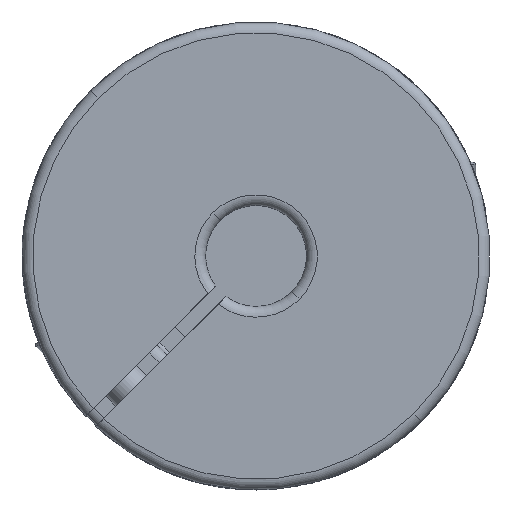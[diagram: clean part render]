
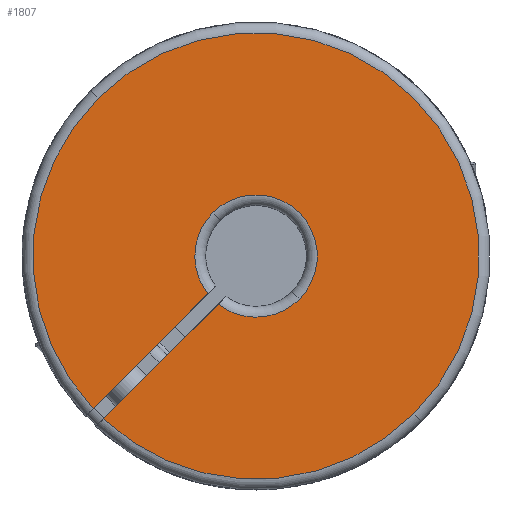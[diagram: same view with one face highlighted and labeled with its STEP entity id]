
A CAD part, front view. The second image highlights one B-rep face of the part: STEP entity #1807.
In plain terms, the highlighted planar face has unit normal (0, -1, 0) as drawn and (-1, 0, 0) by its records, which use the part's own axes.
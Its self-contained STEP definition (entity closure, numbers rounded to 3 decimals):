
#539 = CIRCLE ( 'NONE', #2214, 31. ) ;
#611 = DIRECTION ( 'NONE',  ( 0., -1., 0. ) ) ;
#721 = EDGE_CURVE ( 'NONE', #4507, #2028, #11123, .T. ) ;
#807 = VERTEX_POINT ( 'NONE', #3621 ) ;
#976 = EDGE_CURVE ( 'NONE', #9335, #10876, #9635, .T. ) ;
#1259 = VERTEX_POINT ( 'NONE', #5899 ) ;
#1351 = AXIS2_PLACEMENT_3D ( 'NONE', #7839, #8827, #9888 ) ;
#1647 = AXIS2_PLACEMENT_3D ( 'NONE', #3215, #7230, #10342 ) ;
#1735 = VECTOR ( 'NONE', #611, 1000. ) ;
#1807 = ADVANCED_FACE ( 'NONE', ( #6597 ), #8627, .F. ) ;
#1839 = VERTEX_POINT ( 'NONE', #4939 ) ;
#2028 = VERTEX_POINT ( 'NONE', #10279 ) ;
#2168 = CARTESIAN_POINT ( 'NONE',  ( 0., 8.441, 1. ) ) ;
#2214 = AXIS2_PLACEMENT_3D ( 'NONE', #2809, #6816, #8600 ) ;
#2326 = DIRECTION ( 'NONE',  ( 0., 0., 1. ) ) ;
#2367 = AXIS2_PLACEMENT_3D ( 'NONE', #7761, #11343, #2326 ) ;
#2577 = CARTESIAN_POINT ( 'NONE',  ( 0., 31., 0. ) ) ;
#2809 = CARTESIAN_POINT ( 'NONE',  ( 0., 0., 0. ) ) ;
#2901 = AXIS2_PLACEMENT_3D ( 'NONE', #12978, #4673, #8688 ) ;
#3098 = EDGE_CURVE ( 'NONE', #5865, #9335, #10891, .T. ) ;
#3215 = CARTESIAN_POINT ( 'NONE',  ( 0., 0., 0. ) ) ;
#3301 = CARTESIAN_POINT ( 'NONE',  ( 0., 0., 0. ) ) ;
#3341 = LINE ( 'NONE', #8403, #9131 ) ;
#3580 = ORIENTED_EDGE ( 'NONE', *, *, #5185, .T. ) ;
#3621 = CARTESIAN_POINT ( 'NONE',  ( 0., 8.441, -1. ) ) ;
#3771 = LINE ( 'NONE', #11546, #1735 ) ;
#3996 = ORIENTED_EDGE ( 'NONE', *, *, #3098, .F. ) ;
#4246 = CIRCLE ( 'NONE', #2367, 31. ) ;
#4388 = CARTESIAN_POINT ( 'NONE',  ( 0., 30.984, -1. ) ) ;
#4489 = DIRECTION ( 'NONE',  ( 0., 0., -1. ) ) ;
#4507 = VERTEX_POINT ( 'NONE', #4388 ) ;
#4601 = AXIS2_PLACEMENT_3D ( 'NONE', #3301, #7446, #11468 ) ;
#4673 = DIRECTION ( 'NONE',  ( -1., 0., 0. ) ) ;
#4939 = CARTESIAN_POINT ( 'NONE',  ( 0., 30.984, 1. ) ) ;
#5185 = EDGE_CURVE ( 'NONE', #807, #4507, #3341, .T. ) ;
#5420 = ORIENTED_EDGE ( 'NONE', *, *, #6005, .F. ) ;
#5865 = VERTEX_POINT ( 'NONE', #12724 ) ;
#5899 = CARTESIAN_POINT ( 'NONE',  ( 0., 0., 31. ) ) ;
#6005 = EDGE_CURVE ( 'NONE', #807, #5865, #7858, .T. ) ;
#6067 = CARTESIAN_POINT ( 'NONE',  ( 0., 0., 8.5 ) ) ;
#6597 = FACE_OUTER_BOUND ( 'NONE', #8093, .T. ) ;
#6816 = DIRECTION ( 'NONE',  ( -1., 0., 0. ) ) ;
#6985 = ORIENTED_EDGE ( 'NONE', *, *, #721, .T. ) ;
#7230 = DIRECTION ( 'NONE',  ( -1., 0., 0. ) ) ;
#7446 = DIRECTION ( 'NONE',  ( -1., 0., 0. ) ) ;
#7761 = CARTESIAN_POINT ( 'NONE',  ( 0., 0., 0. ) ) ;
#7839 = CARTESIAN_POINT ( 'NONE',  ( 0., 0., 0. ) ) ;
#7858 = CIRCLE ( 'NONE', #1351, 8.5 ) ;
#8093 = EDGE_LOOP ( 'NONE', ( #6985, #12891, #9366, #9278, #9995, #3996, #5420, #3580 ) ) ;
#8403 = CARTESIAN_POINT ( 'NONE',  ( 0., 35., -1. ) ) ;
#8600 = DIRECTION ( 'NONE',  ( 0., 0., 1. ) ) ;
#8627 = PLANE ( 'NONE',  #9015 ) ;
#8688 = DIRECTION ( 'NONE',  ( 0., 0., 1. ) ) ;
#8827 = DIRECTION ( 'NONE',  ( -1., 0., 0. ) ) ;
#9015 = AXIS2_PLACEMENT_3D ( 'NONE', #2577, #10367, #4489 ) ;
#9131 = VECTOR ( 'NONE', #10334, 1000. ) ;
#9278 = ORIENTED_EDGE ( 'NONE', *, *, #10069, .T. ) ;
#9335 = VERTEX_POINT ( 'NONE', #6067 ) ;
#9366 = ORIENTED_EDGE ( 'NONE', *, *, #12853, .T. ) ;
#9555 = EDGE_CURVE ( 'NONE', #2028, #1259, #4246, .T. ) ;
#9635 = CIRCLE ( 'NONE', #1647, 8.5 ) ;
#9888 = DIRECTION ( 'NONE',  ( 0., 0., 1. ) ) ;
#9995 = ORIENTED_EDGE ( 'NONE', *, *, #976, .F. ) ;
#10069 = EDGE_CURVE ( 'NONE', #1839, #10876, #3771, .T. ) ;
#10279 = CARTESIAN_POINT ( 'NONE',  ( 0., 0., -31. ) ) ;
#10334 = DIRECTION ( 'NONE',  ( 0., 1., 0. ) ) ;
#10342 = DIRECTION ( 'NONE',  ( 0., 0., 1. ) ) ;
#10367 = DIRECTION ( 'NONE',  ( 1., 0., 0. ) ) ;
#10876 = VERTEX_POINT ( 'NONE', #2168 ) ;
#10891 = CIRCLE ( 'NONE', #2901, 8.5 ) ;
#11123 = CIRCLE ( 'NONE', #4601, 31. ) ;
#11343 = DIRECTION ( 'NONE',  ( -1., 0., 0. ) ) ;
#11468 = DIRECTION ( 'NONE',  ( 0., 0., 1. ) ) ;
#11546 = CARTESIAN_POINT ( 'NONE',  ( 0., 35., 1. ) ) ;
#12724 = CARTESIAN_POINT ( 'NONE',  ( 0., 0., -8.5 ) ) ;
#12853 = EDGE_CURVE ( 'NONE', #1259, #1839, #539, .T. ) ;
#12891 = ORIENTED_EDGE ( 'NONE', *, *, #9555, .T. ) ;
#12978 = CARTESIAN_POINT ( 'NONE',  ( 0., 0., 0. ) ) ;
